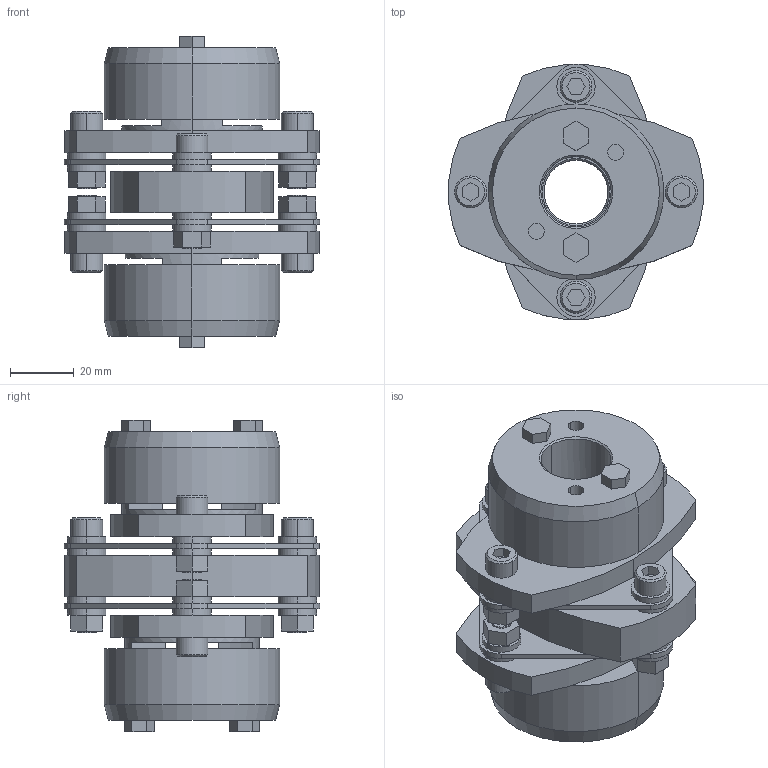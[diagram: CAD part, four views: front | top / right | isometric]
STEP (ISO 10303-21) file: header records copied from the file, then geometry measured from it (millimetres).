
FILE_DESCRIPTION((''),'2;1');
FILE_NAME('LCD-80T7-20×22.stp','2011-09-15T13:32:43',(''),(''),'AutoCAD STEP 2000i','AutoCAD 2000i',', , ');
FILE_SCHEMA(('CONFIG_CONTROL_DESIGN'));
Length unit declared in the file: millimetre
Products named in the file (8): LCD-80T7-19×22; 忣兜1; LC80T7-T022; LC80T7-T019-1; LC80T7-T019; LC80T7-T017-1; LC80T7-T017; LCD80-ITA
Assembly tree (7 placements, depth 2):
  LCD-80T7-19×22
    忣兜1
    LC80T7-T022
    LC80T7-T019-1
    LC80T7-T019
    LC80T7-T017-1
    LC80T7-T017
    LCD80-ITA
Bounding box: 80 x 79.95 x 97.5 mm (x, y, z)
Volume: 188332.1 mm3; surface area: 57942.1 mm2
Topology: 1 solids, 1 shells, 306 faces, 744 edges, 488 vertices
Faces by surface type: plane 162, cylinder 120, cone 24
Entity records: 9261 total; most frequent: DIRECTION 1652, CARTESIAN_POINT 1546, ORIENTED_EDGE 1488, EDGE_CURVE 744, AXIS2_PLACEMENT_3D 594, VERTEX_POINT 488, VECTOR 464, LINE 464
